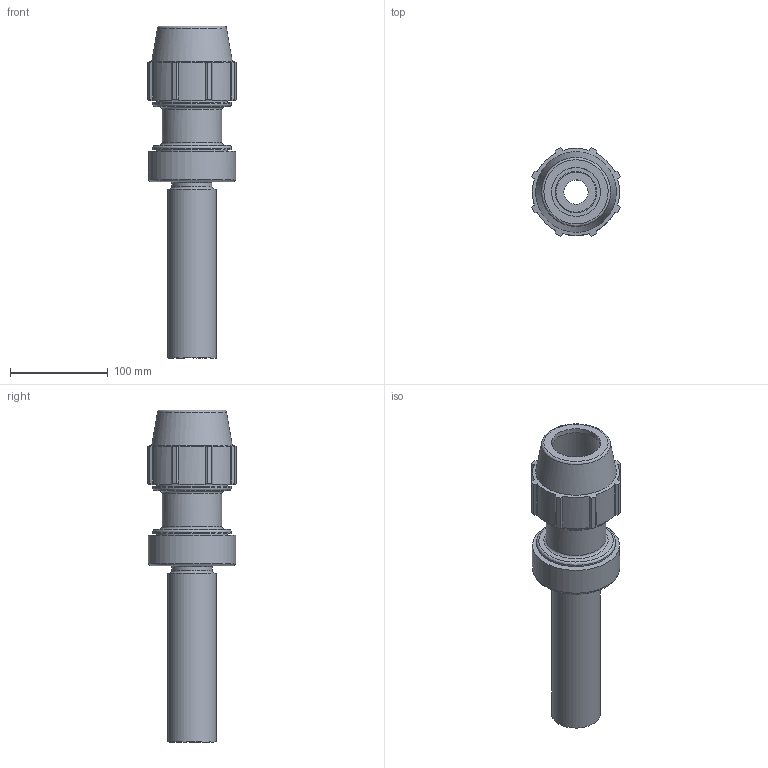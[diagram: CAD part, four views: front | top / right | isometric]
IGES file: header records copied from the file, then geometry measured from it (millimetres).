
Global section: file name: 074706050; native system: Autodesk Inventor 2019; preprocessor: unknown; author: comp2; date: 20230323.113524; units: millimetre
Bounding box: 90.33 x 90.33 x 340 mm (x, y, z)
Volume: 692267.1 mm3; surface area: 174643.8 mm2
Topology: 4 solids, 4 shells, 98 faces, 290 edges, 208 vertices
Faces by surface type: bspline 98
